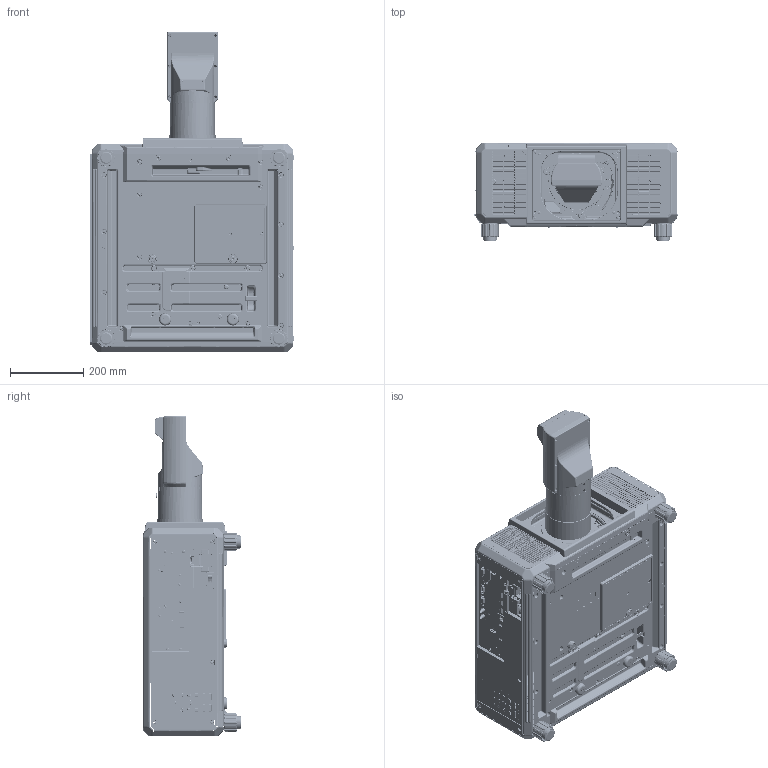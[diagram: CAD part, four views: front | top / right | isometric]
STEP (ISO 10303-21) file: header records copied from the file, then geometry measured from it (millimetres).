
FILE_DESCRIPTION(/* description */ (''),/* implementation_level */ '2;1');
FILE_NAME(/* name */ '01103255_ZA00_RQ25K_D75LE90_FACE.stp',/* time_stamp */ '2022-12-05T14:16:53+09:00',/* author */ (''),/* organization */ (''),/* preprocessor_version */ 'ST-DEVELOPER v16',/* originating_system */ 'SIEMENS PLM Software NX 10.0',/* authorisation */ '');
FILE_SCHEMA (('AUTOMOTIVE_DESIGN { 1 0 10303 214 3 1 1 1 }'));
Products named in the file (1): 01103255_ZA00
Bounding box: 556.3 x 269 x 876.66 mm (x, y, z)
Surface area: 1845672.2 mm2 (no closed solid volume)
Topology: 0 solids, 2175 shells, 9993 faces, 45300 edges, 36889 vertices
Faces by surface type: plane 4969, cylinder 3879, torus 436, bspline 415, cone 173, sphere 120, extrusion 1
Full cylindrical faces by diameter (mm): 1.02 x1, 3 x2, 3.6 x1, 5 x2, 5.5 x2, 5.755 x1, 6 x2, 8 x2, 9.5 x2, 12 x1, 37.2 x4, 40 x4, 122.5 x1, 126.5 x1, 154 x1
Entity records: 551598 total; most frequent: CARTESIAN_POINT 128486, DIRECTION 74244, ORIENTED_EDGE 55057, EDGE_CURVE 44821, VERTEX_POINT 36732, VECTOR 25170, LINE 25169, AXIS2_PLACEMENT_3D 24537
